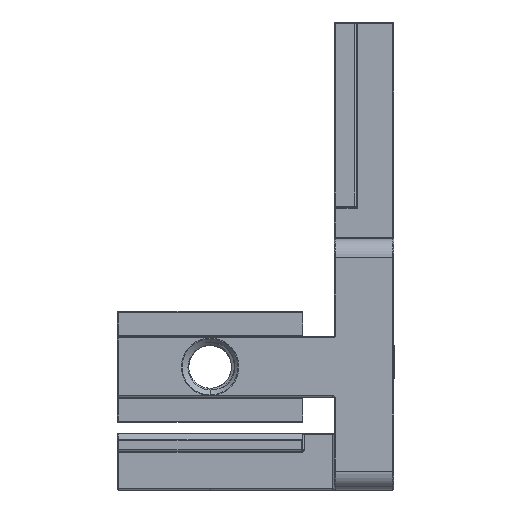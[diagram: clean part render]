
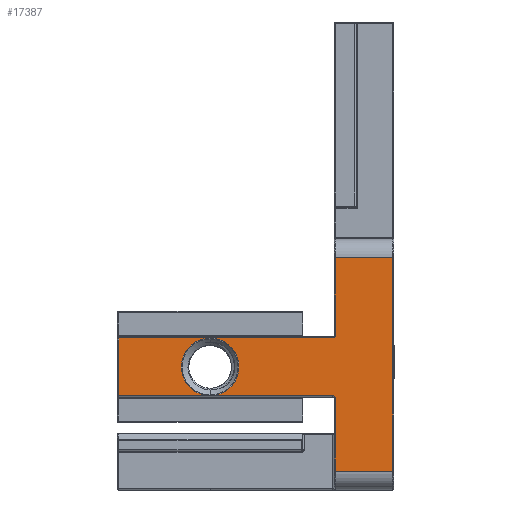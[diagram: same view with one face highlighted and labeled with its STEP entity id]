
A CAD part, left-side view. The second image highlights one B-rep face of the part: STEP entity #17387.
In plain terms, the highlighted planar face has unit normal (-1, 0, 0).
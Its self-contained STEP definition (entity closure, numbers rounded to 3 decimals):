
#645 = EDGE_CURVE ( 'NONE', #15103, #8192, #8601, .T. ) ;
#820 = DIRECTION ( 'NONE',  ( 0., 0., -1. ) ) ;
#1200 = EDGE_CURVE ( 'NONE', #6703, #3966, #10077, .T. ) ;
#1765 = VECTOR ( 'NONE', #4957, 1000. ) ;
#1959 = AXIS2_PLACEMENT_3D ( 'NONE', #12771, #15285, #820 ) ;
#2012 = CARTESIAN_POINT ( 'NONE',  ( -20., 29.25, -0.4 ) ) ;
#2310 = CARTESIAN_POINT ( 'NONE',  ( -20., 9.3, 17. ) ) ;
#2596 = LINE ( 'NONE', #8245, #29813 ) ;
#3071 = CARTESIAN_POINT ( 'NONE',  ( -20., 43.8, -5. ) ) ;
#3119 = ORIENTED_EDGE ( 'NONE', *, *, #645, .F. ) ;
#3298 = ORIENTED_EDGE ( 'NONE', *, *, #1200, .F. ) ;
#3966 = VERTEX_POINT ( 'NONE', #18667 ) ;
#4401 = EDGE_CURVE ( 'NONE', #26034, #30296, #2596, .T. ) ;
#4450 = DIRECTION ( 'NONE',  ( 0., 0., -1. ) ) ;
#4688 = CARTESIAN_POINT ( 'NONE',  ( -20., 9.7, 4.2 ) ) ;
#4856 = EDGE_CURVE ( 'NONE', #15391, #18953, #8617, .T. ) ;
#4957 = DIRECTION ( 'NONE',  ( 0., 0., 1. ) ) ;
#5493 = EDGE_LOOP ( 'NONE', ( #26263, #27575 ) ) ;
#5849 = CARTESIAN_POINT ( 'NONE',  ( -20., 9.7, -5.4 ) ) ;
#6017 = EDGE_CURVE ( 'NONE', #21102, #15391, #21774, .T. ) ;
#6703 = VERTEX_POINT ( 'NONE', #2310 ) ;
#7261 = CARTESIAN_POINT ( 'NONE',  ( -20., 0.2, -17. ) ) ;
#7325 = ORIENTED_EDGE ( 'NONE', *, *, #30381, .T. ) ;
#8003 = CARTESIAN_POINT ( 'NONE',  ( -20., 9.3, 4.6 ) ) ;
#8019 = DIRECTION ( 'NONE',  ( 0., 1., 0. ) ) ;
#8192 = VERTEX_POINT ( 'NONE', #20104 ) ;
#8245 = CARTESIAN_POINT ( 'NONE',  ( -20., 9.5, -17. ) ) ;
#8286 = DIRECTION ( 'NONE',  ( 0., 0., -1. ) ) ;
#8519 = CARTESIAN_POINT ( 'NONE',  ( -20., 9.3, -5.4 ) ) ;
#8601 = CIRCLE ( 'NONE', #29849, 0.4 ) ;
#8617 = LINE ( 'NONE', #10960, #20690 ) ;
#8630 = DIRECTION ( 'NONE',  ( 0., 0., -1. ) ) ;
#8931 = LINE ( 'NONE', #7261, #1765 ) ;
#9335 = VECTOR ( 'NONE', #23953, 1000. ) ;
#9375 = FACE_BOUND ( 'NONE', #5493, .T. ) ;
#10077 = LINE ( 'NONE', #13077, #22131 ) ;
#10960 = CARTESIAN_POINT ( 'NONE',  ( -20., 43.8, -5.2 ) ) ;
#11327 = AXIS2_PLACEMENT_3D ( 'NONE', #28378, #13882, #30786 ) ;
#11411 = ORIENTED_EDGE ( 'NONE', *, *, #18008, .T. ) ;
#11621 = AXIS2_PLACEMENT_3D ( 'NONE', #2012, #18860, #4450 ) ;
#11796 = EDGE_CURVE ( 'NONE', #15103, #26034, #22157, .T. ) ;
#11904 = ORIENTED_EDGE ( 'NONE', *, *, #6017, .T. ) ;
#12771 = CARTESIAN_POINT ( 'NONE',  ( -20., 9.5, -17. ) ) ;
#12881 = DIRECTION ( 'NONE',  ( -1., 0., 0. ) ) ;
#13077 = CARTESIAN_POINT ( 'NONE',  ( -20., 9.5, 17. ) ) ;
#13882 = DIRECTION ( 'NONE',  ( 1., 0., 0. ) ) ;
#14360 = EDGE_CURVE ( 'NONE', #18360, #24011, #18905, .T. ) ;
#15043 = FACE_OUTER_BOUND ( 'NONE', #24138, .T. ) ;
#15103 = VERTEX_POINT ( 'NONE', #8519 ) ;
#15285 = DIRECTION ( 'NONE',  ( 1., 0., 0. ) ) ;
#15369 = VECTOR ( 'NONE', #8019, 1000. ) ;
#15391 = VERTEX_POINT ( 'NONE', #24723 ) ;
#15758 = VECTOR ( 'NONE', #24373, 1000. ) ;
#15984 = EDGE_CURVE ( 'NONE', #18953, #8192, #27961, .T. ) ;
#16445 = ORIENTED_EDGE ( 'NONE', *, *, #11796, .T. ) ;
#16590 = CARTESIAN_POINT ( 'NONE',  ( -20., 9.3, -17. ) ) ;
#17387 = ADVANCED_FACE ( 'NONE', ( #9375, #15043 ), #29778, .F. ) ;
#18008 = EDGE_CURVE ( 'NONE', #6703, #27642, #22928, .T. ) ;
#18153 = CARTESIAN_POINT ( 'NONE',  ( -20., 29.25, 4.183 ) ) ;
#18360 = VERTEX_POINT ( 'NONE', #18153 ) ;
#18667 = CARTESIAN_POINT ( 'NONE',  ( -20., 0.2, 17. ) ) ;
#18860 = DIRECTION ( 'NONE',  ( 1., 0., 0. ) ) ;
#18905 = CIRCLE ( 'NONE', #11621, 4.583 ) ;
#18953 = VERTEX_POINT ( 'NONE', #3071 ) ;
#19410 = DIRECTION ( 'NONE',  ( 0., -1., 0. ) ) ;
#20104 = CARTESIAN_POINT ( 'NONE',  ( -20., 9.7, -5. ) ) ;
#20690 = VECTOR ( 'NONE', #8630, 1000. ) ;
#20868 = ORIENTED_EDGE ( 'NONE', *, *, #4856, .T. ) ;
#21102 = VERTEX_POINT ( 'NONE', #4688 ) ;
#21507 = CARTESIAN_POINT ( 'NONE',  ( -20., 0.2, -17. ) ) ;
#21542 = CARTESIAN_POINT ( 'NONE',  ( -20., 9.3, -17. ) ) ;
#21774 = LINE ( 'NONE', #22455, #15369 ) ;
#21862 = CARTESIAN_POINT ( 'NONE',  ( -20., 9.5, -5. ) ) ;
#21953 = CARTESIAN_POINT ( 'NONE',  ( -20., 9.3, 4.4 ) ) ;
#22079 = CIRCLE ( 'NONE', #27522, 0.4 ) ;
#22131 = VECTOR ( 'NONE', #22871, 1000. ) ;
#22157 = LINE ( 'NONE', #21542, #9335 ) ;
#22250 = VECTOR ( 'NONE', #19410, 1000. ) ;
#22455 = CARTESIAN_POINT ( 'NONE',  ( -20., 9.5, 4.2 ) ) ;
#22720 = DIRECTION ( 'NONE',  ( -1., 0., 0. ) ) ;
#22871 = DIRECTION ( 'NONE',  ( 0., -1., 0. ) ) ;
#22928 = LINE ( 'NONE', #21953, #15758 ) ;
#23278 = EDGE_CURVE ( 'NONE', #24011, #18360, #29231, .T. ) ;
#23953 = DIRECTION ( 'NONE',  ( 0., 0., -1. ) ) ;
#24011 = VERTEX_POINT ( 'NONE', #29400 ) ;
#24138 = EDGE_LOOP ( 'NONE', ( #25625, #7325, #3298, #11411, #27518, #11904, #20868, #25914, #3119, #16445 ) ) ;
#24373 = DIRECTION ( 'NONE',  ( 0., 0., -1. ) ) ;
#24723 = CARTESIAN_POINT ( 'NONE',  ( -20., 43.8, 4.2 ) ) ;
#25093 = DIRECTION ( 'NONE',  ( 0., -1., 0. ) ) ;
#25625 = ORIENTED_EDGE ( 'NONE', *, *, #4401, .T. ) ;
#25914 = ORIENTED_EDGE ( 'NONE', *, *, #15984, .T. ) ;
#26034 = VERTEX_POINT ( 'NONE', #16590 ) ;
#26263 = ORIENTED_EDGE ( 'NONE', *, *, #23278, .T. ) ;
#27339 = CARTESIAN_POINT ( 'NONE',  ( -20., 9.7, 4.6 ) ) ;
#27518 = ORIENTED_EDGE ( 'NONE', *, *, #31056, .F. ) ;
#27522 = AXIS2_PLACEMENT_3D ( 'NONE', #27339, #12881, #29786 ) ;
#27575 = ORIENTED_EDGE ( 'NONE', *, *, #14360, .T. ) ;
#27642 = VERTEX_POINT ( 'NONE', #8003 ) ;
#27961 = LINE ( 'NONE', #21862, #22250 ) ;
#28378 = CARTESIAN_POINT ( 'NONE',  ( -20., 29.25, -0.4 ) ) ;
#29231 = CIRCLE ( 'NONE', #11327, 4.583 ) ;
#29400 = CARTESIAN_POINT ( 'NONE',  ( -20., 29.25, -4.983 ) ) ;
#29778 = PLANE ( 'NONE',  #1959 ) ;
#29786 = DIRECTION ( 'NONE',  ( 0., 0., -1. ) ) ;
#29813 = VECTOR ( 'NONE', #25093, 1000. ) ;
#29849 = AXIS2_PLACEMENT_3D ( 'NONE', #5849, #22720, #8286 ) ;
#30296 = VERTEX_POINT ( 'NONE', #21507 ) ;
#30381 = EDGE_CURVE ( 'NONE', #30296, #3966, #8931, .T. ) ;
#30786 = DIRECTION ( 'NONE',  ( 0., 0., -1. ) ) ;
#31056 = EDGE_CURVE ( 'NONE', #21102, #27642, #22079, .T. ) ;
